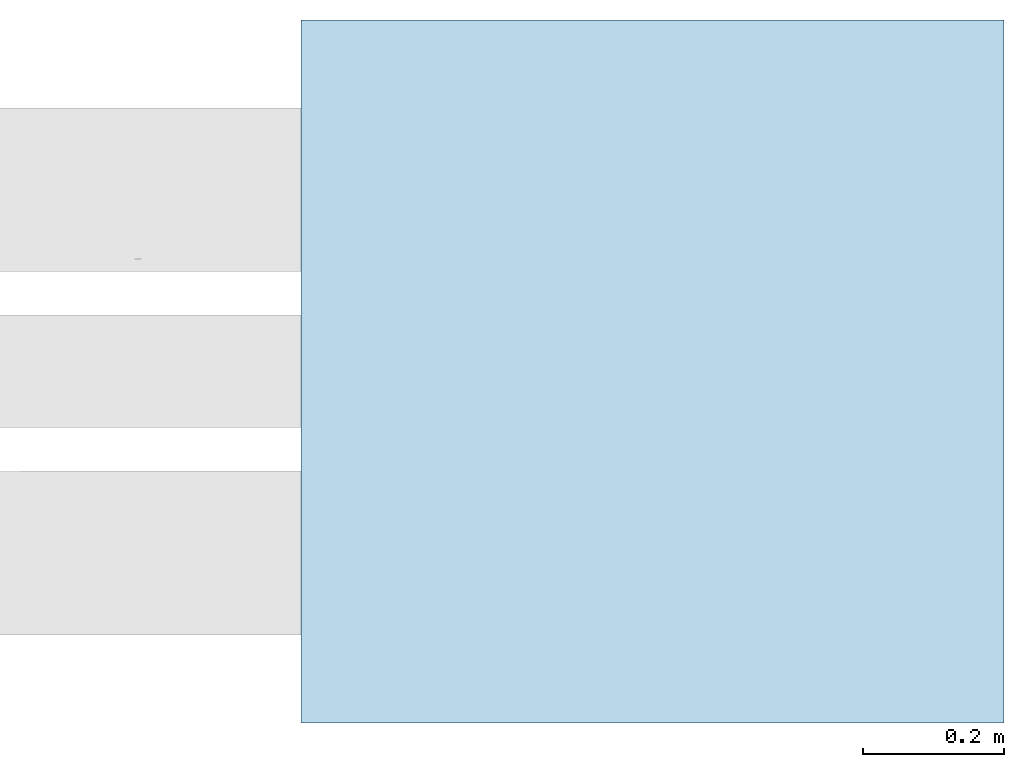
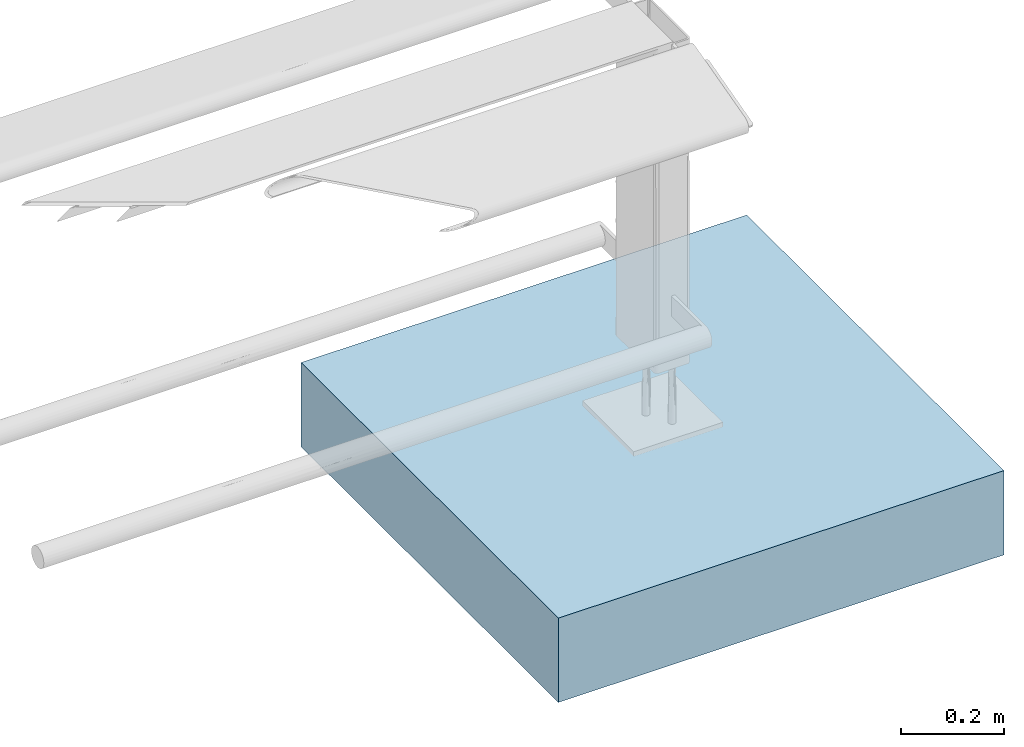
# One storey, incomplete: 1 slab.
"""IFC4 building model written with IfcOpenShell, lengths in metres."""

from ifc_helpers import new_model, entity, si_unit, converted_unit, direction, frame, frame_2d, origin, place, context, subcontext, project, spatial, rectangle, extrude, material, type_object, element, save


model = new_model("IFC4")

# Units and contexts
model_context = context("Model", 3, precision=1e-05, world=origin(), true_north=direction((6.123031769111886e-17, 1.0)))
body_context = subcontext(model_context, "Body", "Model", "MODEL_VIEW")
ifc_project = project(units=[si_unit("LENGTHUNIT", "METRE"), converted_unit("PLANEANGLEUNIT", "DEGREE", entity("IfcPlaneAngleMeasure", 0.017453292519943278), si_unit("PLANEANGLEUNIT", "RADIAN"), dimensions=[0, 0, 0, 0, 0, 0, 0]), si_unit("AREAUNIT", "SQUARE_METRE")], contexts=[model_context])

# Site, building, storey
site_placement = place(None, origin())
site = spatial("IfcSite", under=ifc_project, at=site_placement, Name="Default", CompositionType="ELEMENT")
building_placement = place(site_placement, origin())
building = spatial("IfcBuilding", under=site, at=building_placement, CompositionType="ELEMENT")
storey_placement = place(building_placement, origin())
storey = spatial("IfcBuildingStorey", under=building, at=storey_placement, Name="Ebene 0", CompositionType="ELEMENT", Elevation=0.0)

# Slab
ifc_material = material(Name="DB_Fertigbeton", Category="DB_Beton")
slab_type = type_object("IfcSlabType", Name="DB_Calidum_light_Fundament:DB_Calidum_light_Fundament", PredefinedType="BASESLAB", material=ifc_material)
slab_placement = place(storey_placement, origin())
element("IfcSlab", 1, at=slab_placement, inside=storey, type_object=slab_type, Name="DB_Calidum_light_Fundament:DB_Calidum_light_Fundament", ObjectType="DB_Calidum_light_Fundament:DB_Calidum_light_Fundament", PredefinedType="BASESLAB", context=body_context, shape_type="SweptSolid", body=[
    extrude(rectangle(XDim=0.9999999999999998, YDim=0.9999999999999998, at=frame_2d((0.0, -1.1102230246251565e-16), x_axis=(1.0, 0.0))), frame((1.5000000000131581, 0.0, -0.36199999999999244), z_axis=(0.0, 0.0, 1.0), x_axis=(0.0, 1.0, 0.0)), (0.0, 0.0, 1.0), 0.2),
])

save(model, "model.ifc")
